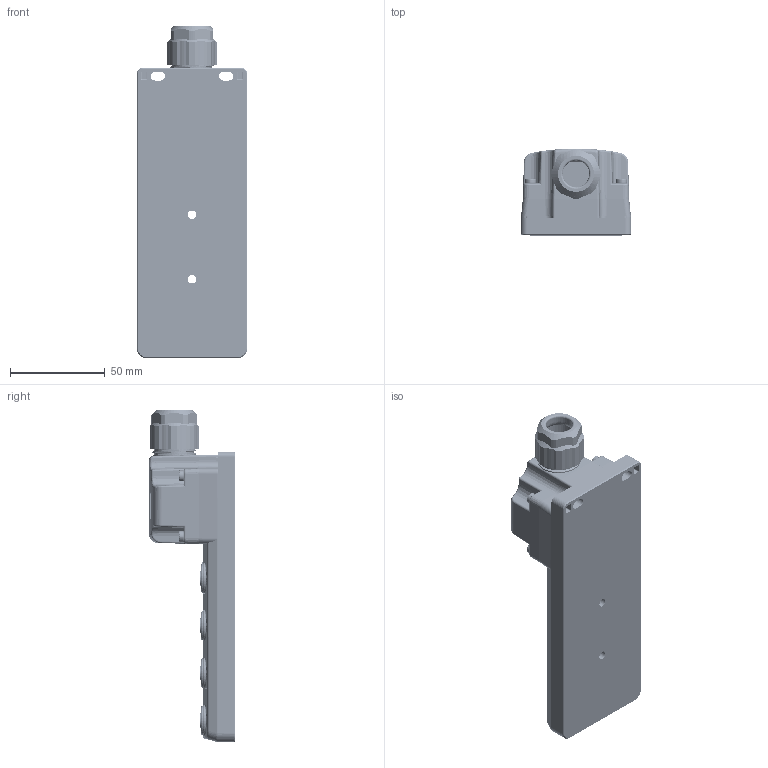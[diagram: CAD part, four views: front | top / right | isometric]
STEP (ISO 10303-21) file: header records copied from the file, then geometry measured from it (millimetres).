
FILE_DESCRIPTION((''),'2;1');
FILE_NAME('24P8SN_24N8SN_','2022-06-01T',('PC'),(''),'PRO/ENGINEER BY PARAMETRIC TECHNOLOGY CORPORATION, 2009220','PRO/ENGINEER BY PARAMETRIC TECHNOLOGY CORPORATION, 2009220','');
FILE_SCHEMA(('CONFIG_CONTROL_DESIGN'));
Products named in the file (1): 24P8SN_24N8SN_
Bounding box: 58 x 45.6 x 175 mm (x, y, z)
Surface area: 67146.3 mm2 (no closed solid volume)
Topology: 0 solids, 25 shells, 4540 faces, 12853 edges, 8441 vertices
Faces by surface type: plane 2301, cylinder 1213, bspline 606, cone 206, torus 178, revolution 22, sphere 14
Full cylindrical faces by diameter (mm): 1.5 x9, 1.6 x8
Entity records: 217470 total; most frequent: CARTESIAN_POINT 104651, ORIENTED_EDGE 25346, DIRECTION 20663, EDGE_CURVE 12851, VERTEX_POINT 8441, VECTOR 7089, LINE 7089, AXIS2_PLACEMENT_3D 6776
